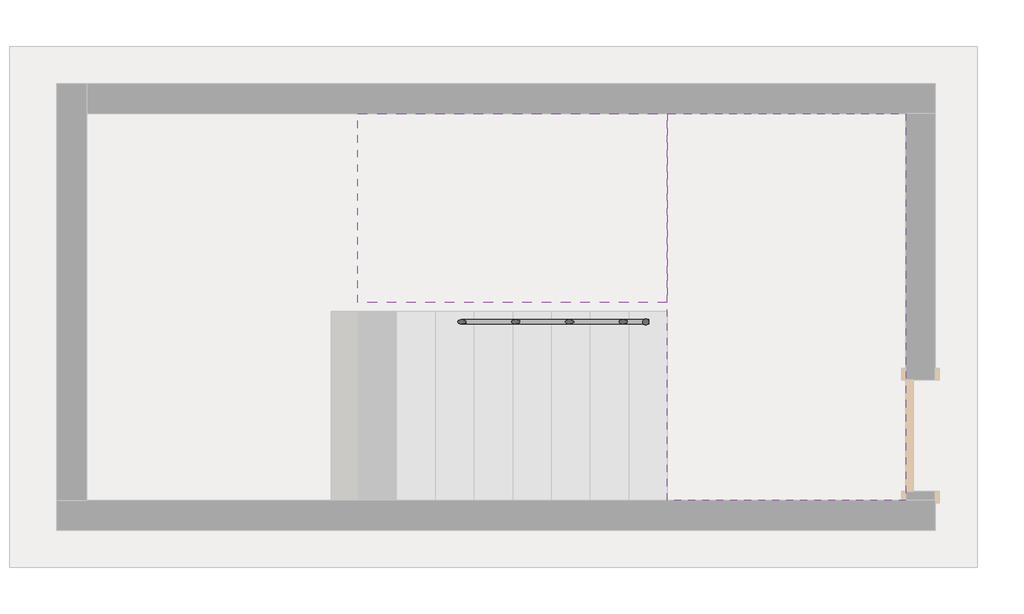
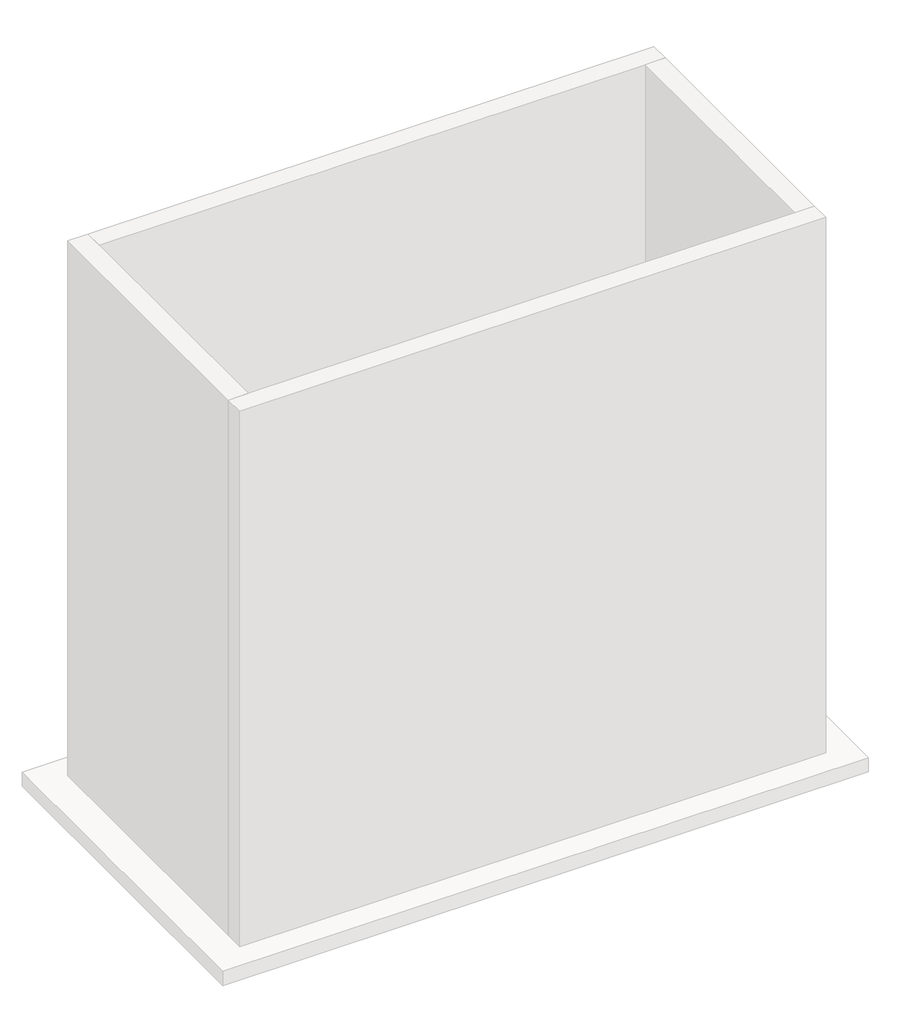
# One storey, part 2 of 2: 1 railing, 1 slab, 1 stair flight.
"""IFC4 building model written with IfcOpenShell, lengths in millimetres."""

from ifc_helpers import new_model, si_unit, point, frame, frame_2d, origin, place, context, project, spatial, circle_curve, ellipse_curve, trimmed, segment, composite_curve, outline, extrude, faceted_brep, element, save
from ifc_brep_helpers import plane_surface, cylinder_surface, advanced_brep

model = new_model("IFC4")

# Units and contexts
model_context = context("Model", 3, world=origin())
ifc_project = project(units=[si_unit("LENGTHUNIT", "METRE", prefix="MILLI")], contexts=[model_context])

# Site, building, storey
site = spatial("IfcSite", under=ifc_project)
building = spatial("IfcBuilding", under=site)
storey = spatial("IfcBuildingStorey", under=building, Name="标高 1", Elevation=0.0)

# Railing
placement = place(None, origin())
element("IfcRailing", 1, ObjectType="1100mm圆管-楼梯", at=placement, inside=storey, context=model_context, shape_type="SolidModel", body=[
    advanced_brep(
    [(5719.1227165, -2293.3269479, 3966.5384615), (5759.1227165, -2293.3269479, 3966.5384615), (5759.1227165, -873.3269479, 3966.5384615), (5719.1227165, -913.3269479, 3966.5384615), (3459.1227165, -913.3269479, 2617.2884694), (3459.1227165, -873.3269479, 2617.2884694), (5674.7332298, -913.3269479, 3966.5384615), (5674.7332298, -873.3269479, 3966.5384615)],
    [
        (0, 1, circle_curve(frame((5739.1227165, -2293.3269479, 3966.5384615), z_axis=(0.0, -1.0, 0.0), x_axis=(1.0, 0.0, 0.0)), 20.0)),
        (1, 0, circle_curve(frame((5739.1227165, -2293.3269479, 3966.5384615), z_axis=(0.0, -1.0, 0.0), x_axis=(1.0, 0.0, 0.0)), 20.0)),
        (2, 3, ellipse_curve(frame((5739.1227165, -893.3269479, 3966.5384615), z_axis=(0.7071067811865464, -0.7071067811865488, 0.0), x_axis=(0.7071067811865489, 0.707106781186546, 0.0)), 28.2842712, 20.0)),
        (3, 0),
        (1, 2),
        (3, 2, ellipse_curve(frame((5739.1227165, -893.3269479, 3966.5384615), z_axis=(0.7071067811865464, -0.7071067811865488, 0.0), x_axis=(0.7071067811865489, 0.707106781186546, 0.0)), 28.2842712, 20.0)),
        (4, 5, ellipse_curve(frame((3459.1227165, -893.3269479, 2617.2884694), z_axis=(-0.48983638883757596, 0.0, -0.8718143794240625), x_axis=(-0.8718143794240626, 0.0, 0.4898363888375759)), 22.9406631, 20.0)),
        (5, 4, ellipse_curve(frame((3459.1227165, -893.3269479, 2617.2884694), z_axis=(-0.48983638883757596, 0.0, -0.8718143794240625), x_axis=(-0.8718143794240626, 0.0, 0.4898363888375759)), 22.9406631, 20.0)),
        (4, 6),
        (6, 7, ellipse_curve(frame((5674.7332298, -893.3269479, 3966.5384615), z_axis=(-0.9628324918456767, 0.0, -0.27009922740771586), x_axis=(0.2700992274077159, 0.0, -0.9628324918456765)), 20.7720452, 20.0)),
        (7, 5),
        (7, 6, ellipse_curve(frame((5674.7332298, -893.3269479, 3966.5384615), z_axis=(-0.9628324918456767, 0.0, -0.27009922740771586), x_axis=(0.2700992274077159, 0.0, -0.9628324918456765)), 20.7720452, 20.0)),
        (6, 3),
        (2, 7),
    ],
    [
        plane_surface(frame((5739.1227165, -2293.3269479, 3986.5384615), z_axis=(0.0, -1.0, 0.0), x_axis=(0.0, 0.0, -1.0))),
        cylinder_surface(frame((5739.1227165, -893.3269479, 3966.5384615), z_axis=(0.0, 1.0, 0.0), x_axis=(1.0, 0.0, 0.0)), 20.0),
        plane_surface(frame((3439.1227165, -893.3269479, 2628.525641), z_axis=(-0.48983638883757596, 0.0, -0.8718143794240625), x_axis=(0.8718143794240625, 0.0, -0.48983638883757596))),
        cylinder_surface(frame((3449.5251289, -893.3269479, 2611.4437847), z_axis=(-0.8540928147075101, 0.0, -0.5201206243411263), x_axis=(0.0, 1.0, 0.0)), 20.0),
        cylinder_surface(frame((5669.1227165, -893.3269479, 3966.5384615), z_axis=(-1.0, 0.0, 0.0), x_axis=(0.0, 1.0, 0.0)), 20.0),
    ],
    [
        (0, [[1, 2]]),
        (1, [[3, 4, -2, 5]]),
        (1, [[6, -5, -1, -4]]),
        (2, [[7, 8]]),
        (3, [[-7, 9, 10, 11]]),
        (3, [[-8, -11, 12, -9]]),
        (4, [[-10, 13, -3, 14]]),
        (4, [[-12, -14, -6, -13]]),
    ],
),
    advanced_brep(
    [(3479.1227165, -893.3269479, 2505.0), (3439.1227165, -893.3269479, 2505.0), (3439.1227165, -1113.3269479, 2505.0), (3479.1227165, -1073.3269479, 2505.0), (5464.1227165, -1113.3269479, 1323.2179566), (5464.1227165, -1073.3269479, 1323.2179566), (3523.5122031, -1073.3269479, 2505.0), (3523.5122031, -1113.3269479, 2505.0), (5464.1227165, -1073.3269479, 158.3333333), (5464.1227165, -1113.3269479, 158.3333333)],
    [
        (0, 1, ellipse_curve(frame((3459.1227165, -893.3269479, 2505.0), z_axis=(0.0, 0.7071067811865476, 0.7071067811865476), x_axis=(0.0, -0.7071067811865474, 0.7071067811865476)), 28.2842712, 20.0)),
        (1, 0, ellipse_curve(frame((3459.1227165, -893.3269479, 2505.0), z_axis=(0.0, 0.7071067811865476, 0.7071067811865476), x_axis=(0.0, -0.7071067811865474, 0.7071067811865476)), 28.2842712, 20.0)),
        (2, 3, ellipse_curve(frame((3459.1227165, -1093.3269479, 2505.0), z_axis=(-0.7071067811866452, 0.7071067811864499, 0.0), x_axis=(-0.7071067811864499, -0.7071067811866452, 0.0)), 28.2842712, 20.0)),
        (3, 0),
        (1, 2),
        (3, 2, ellipse_curve(frame((3459.1227165, -1093.3269479, 2505.0), z_axis=(-0.7071067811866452, 0.7071067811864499, 0.0), x_axis=(-0.7071067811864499, -0.7071067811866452, 0.0)), 28.2842712, 20.0)),
        (4, 5, ellipse_curve(frame((5464.1227165, -1093.3269479, 1323.2179566), z_axis=(-0.48983638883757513, 0.0, 0.8718143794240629), x_axis=(0.8718143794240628, 0.0, 0.4898363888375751)), 22.9406631, 20.0)),
        (5, 6),
        (6, 7, ellipse_curve(frame((3523.5122031, -1093.3269479, 2505.0), z_axis=(0.9628324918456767, 0.0, -0.27009922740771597), x_axis=(-0.2700992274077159, 0.0, -0.9628324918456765)), 20.7720452, 20.0)),
        (7, 4),
        (5, 4, ellipse_curve(frame((5464.1227165, -1093.3269479, 1323.2179566), z_axis=(-0.48983638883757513, 0.0, 0.8718143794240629), x_axis=(0.8718143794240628, 0.0, 0.4898363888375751)), 22.9406631, 20.0)),
        (7, 6, ellipse_curve(frame((3523.5122031, -1093.3269479, 2505.0), z_axis=(0.9628324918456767, 0.0, -0.27009922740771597), x_axis=(-0.2700992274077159, 0.0, -0.9628324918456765)), 20.7720452, 20.0)),
        (8, 9, circle_curve(frame((5464.1227165, -1093.3269479, 158.3333333), z_axis=(0.0, 0.0, -1.0), x_axis=(0.0, -1.0, 0.0)), 20.0)),
        (9, 8, circle_curve(frame((5464.1227165, -1093.3269479, 158.3333333), z_axis=(0.0, 0.0, -1.0), x_axis=(0.0, -1.0, 0.0)), 20.0)),
        (8, 5),
        (4, 9),
        (6, 3),
        (2, 7),
    ],
    [
        plane_surface(frame((3459.1227165, -913.3269479, 2525.0), z_axis=(0.0, 0.7071067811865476, 0.7071067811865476), x_axis=(1.0, 0.0, 0.0))),
        cylinder_surface(frame((3459.1227165, -1093.3269479, 2505.0), z_axis=(0.0, -1.0, 0.0), x_axis=(-1.0, 0.0, 0.0)), 20.0),
        cylinder_surface(frame((5473.720304, -1093.3269479, 1317.3732719), z_axis=(0.8540928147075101, 0.0, -0.5201206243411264), x_axis=(0.0, -1.0, 0.0)), 20.0),
        plane_surface(frame((5484.1227165, -1133.3269479, 158.3333333), z_axis=(0.0, 0.0, -1.0), x_axis=(1.0, 0.0, 0.0))),
        cylinder_surface(frame((5464.1227165, -1093.3269479, 158.3333333), z_axis=(0.0, 0.0, -1.0), x_axis=(0.0, -1.0, 0.0)), 20.0),
        cylinder_surface(frame((3529.1227165, -1093.3269479, 2505.0), z_axis=(1.0, 0.0, 0.0), x_axis=(0.0, -1.0, 0.0)), 20.0),
    ],
    [
        (0, [[1, 2]]),
        (1, [[3, 4, -2, 5]]),
        (1, [[6, -5, -1, -4]]),
        (2, [[7, 8, 9, 10]]),
        (2, [[11, -10, 12, -8]]),
        (3, [[13, 14]]),
        (4, [[-13, 15, -7, 16]]),
        (4, [[-14, -16, -11, -15]]),
        (5, [[-9, 17, -3, 18]]),
        (5, [[-12, -18, -6, -17]]),
    ],
),
    advanced_brep(
    [(3479.1227165, -893.3269479, 2505.0), (3439.1227165, -893.3269479, 2505.0), (3479.1227165, -893.3269479, 2606.0512978), (3439.1227165, -893.3269479, 2628.525641)],
    [
        (0, 1, ellipse_curve(frame((3459.1227165, -893.3269479, 2505.0), z_axis=(0.0, -0.7071067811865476, -0.7071067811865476), x_axis=(0.0, 0.7071067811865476, -0.7071067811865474)), 28.2842712, 20.0)),
        (1, 0, ellipse_curve(frame((3459.1227165, -893.3269479, 2505.0), z_axis=(0.0, -0.7071067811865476, -0.7071067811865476), x_axis=(0.0, 0.7071067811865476, -0.7071067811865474)), 28.2842712, 20.0)),
        (2, 3, ellipse_curve(frame((3459.1227165, -893.3269479, 2617.2884694), z_axis=(0.48983638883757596, 0.0, 0.8718143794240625), x_axis=(0.8718143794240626, 0.0, -0.4898363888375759)), 22.9406631, 20.0)),
        (3, 2, ellipse_curve(frame((3459.1227165, -893.3269479, 2617.2884694), z_axis=(0.48983638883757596, 0.0, 0.8718143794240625), x_axis=(0.8718143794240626, 0.0, -0.4898363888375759)), 22.9406631, 20.0)),
        (0, 2),
        (3, 1),
    ],
    [
        plane_surface(frame((3459.1227165, -893.3269479, 2505.0), z_axis=(0.0, -0.7071067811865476, -0.7071067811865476), x_axis=(1.0, 0.0, 0.0))),
        plane_surface(frame((3459.1227165, -893.3269479, 2617.2884694), z_axis=(0.48983638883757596, 0.0, 0.8718143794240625), x_axis=(0.8718143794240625, 0.0, -0.48983638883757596))),
        cylinder_surface(frame((3459.1227165, -893.3269479, 2505.0), z_axis=(0.0, 0.0, -1.0), x_axis=(-1.0, 0.0, 0.0)), 20.0),
    ],
    [
        (0, [[1, 2]]),
        (1, [[3, 4]]),
        (2, [[-1, 5, -4, 6]]),
        (2, [[-2, -6, -3, -5]]),
    ],
),
    advanced_brep(
    [(5754.1227165, -2293.3269479, 3751.5384615), (5724.1227165, -2293.3269479, 3751.5384615), (5754.1227165, -878.3269479, 3751.5384615), (5724.1227165, -908.3269479, 3751.5384615), (5673.3306015, -878.3269479, 3751.5384615), (5673.3306015, -908.3269479, 3751.5384615), (3444.1227165, -878.3269479, 2394.0080187), (3444.1227165, -908.3269479, 2394.0080187)],
    [
        (0, 1, circle_curve(frame((5739.1227165, -2293.3269479, 3751.5384615), z_axis=(0.0, -1.0, 0.0), x_axis=(-1.0, 0.0, 0.0)), 15.0)),
        (1, 0, circle_curve(frame((5739.1227165, -2293.3269479, 3751.5384615), z_axis=(0.0, -1.0, 0.0), x_axis=(-1.0, 0.0, 0.0)), 15.0)),
        (0, 2),
        (2, 3, ellipse_curve(frame((5739.1227165, -893.3269479, 3751.5384615), z_axis=(0.7071067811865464, -0.7071067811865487, 0.0), x_axis=(-0.7071067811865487, -0.7071067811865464, 0.0)), 21.2132034, 15.0)),
        (3, 1),
        (3, 2, ellipse_curve(frame((5739.1227165, -893.3269479, 3751.5384615), z_axis=(0.7071067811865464, -0.7071067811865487, 0.0), x_axis=(-0.7071067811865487, -0.7071067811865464, 0.0)), 21.2132034, 15.0)),
        (2, 4),
        (4, 5, ellipse_curve(frame((5673.3306015, -893.3269479, 3751.5384615), z_axis=(0.9628324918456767, 0.0, 0.2700992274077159), x_axis=(0.27009922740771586, 0.0, -0.9628324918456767)), 15.5790339, 15.0)),
        (5, 3),
        (5, 4, ellipse_curve(frame((5673.3306015, -893.3269479, 3751.5384615), z_axis=(0.9628324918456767, 0.0, 0.2700992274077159), x_axis=(0.27009922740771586, 0.0, -0.9628324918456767)), 15.5790339, 15.0)),
        (6, 7, ellipse_curve(frame((3444.1227165, -893.3269479, 2394.0080187), z_axis=(-1.0, 0.0, 0.0), x_axis=(0.0, 0.0, 1.0)), 17.5624941, 15.0)),
        (7, 6, ellipse_curve(frame((3444.1227165, -893.3269479, 2394.0080187), z_axis=(-1.0, 0.0, 0.0), x_axis=(0.0, 0.0, 1.0)), 17.5624941, 15.0)),
        (4, 6),
        (7, 5),
    ],
    [
        plane_surface(frame((5739.1227165, -2293.3269479, 3766.5384615), z_axis=(0.0, -1.0, 0.0), x_axis=(0.0, 0.0, 1.0))),
        cylinder_surface(frame((5739.1227165, -2293.3269479, 3751.5384615), z_axis=(0.0, -1.0, 0.0), x_axis=(-1.0, 0.0, 0.0)), 15.0),
        cylinder_surface(frame((5739.1227165, -893.3269479, 3751.5384615), z_axis=(1.0, 0.0, 0.0), x_axis=(0.0, -1.0, 0.0)), 15.0),
        plane_surface(frame((3444.1227165, -893.3269479, 2411.5705128), z_axis=(-1.0, 0.0, 0.0), x_axis=(0.0, -1.0, 0.0))),
        cylinder_surface(frame((5676.9245258, -893.3269479, 3753.7270693), z_axis=(0.8540928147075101, 0.0, 0.5201206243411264), x_axis=(0.0, -1.0, 0.0)), 15.0),
    ],
    [
        (0, [[1, 2]]),
        (1, [[-1, 3, 4, 5]]),
        (1, [[-2, -5, 6, -3]]),
        (2, [[-4, 7, 8, 9]]),
        (2, [[-6, -9, 10, -7]]),
        (3, [[11, 12]]),
        (4, [[-8, 13, -12, 14]]),
        (4, [[-10, -14, -11, -13]]),
    ],
),
    advanced_brep(
    [(3444.1227165, -908.3269479, 2290.0), (3474.1227165, -908.3269479, 2290.0), (3444.1227165, -1108.3269479, 2290.0), (3474.1227165, -1078.3269479, 2290.0), (3524.9148314, -1108.3269479, 2290.0), (3524.9148314, -1078.3269479, 2290.0), (5484.1227165, -1108.3269479, 1096.8926341), (5484.1227165, -1078.3269479, 1096.8926341)],
    [
        (0, 1, circle_curve(frame((3459.1227165, -908.3269479, 2290.0), z_axis=(0.0, 1.0, 0.0), x_axis=(1.0, 0.0, 0.0)), 15.0)),
        (1, 0, circle_curve(frame((3459.1227165, -908.3269479, 2290.0), z_axis=(0.0, 1.0, 0.0), x_axis=(1.0, 0.0, 0.0)), 15.0)),
        (0, 2),
        (2, 3, ellipse_curve(frame((3459.1227165, -1093.3269479, 2290.0), z_axis=(-0.7071067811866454, 0.7071067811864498, 0.0), x_axis=(0.7071067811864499, 0.7071067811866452, 0.0)), 21.2132034, 15.0)),
        (3, 1),
        (3, 2, ellipse_curve(frame((3459.1227165, -1093.3269479, 2290.0), z_axis=(-0.7071067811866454, 0.7071067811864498, 0.0), x_axis=(0.7071067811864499, 0.7071067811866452, 0.0)), 21.2132034, 15.0)),
        (2, 4),
        (4, 5, ellipse_curve(frame((3524.9148314, -1093.3269479, 2290.0), z_axis=(-0.9628324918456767, 0.0, 0.2700992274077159), x_axis=(-0.27009922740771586, 0.0, -0.9628324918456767)), 15.5790339, 15.0)),
        (5, 3),
        (5, 4, ellipse_curve(frame((3524.9148314, -1093.3269479, 2290.0), z_axis=(-0.9628324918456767, 0.0, 0.2700992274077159), x_axis=(-0.27009922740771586, 0.0, -0.9628324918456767)), 15.5790339, 15.0)),
        (6, 7, ellipse_curve(frame((5484.1227165, -1093.3269479, 1096.8926341), z_axis=(1.0, 0.0, 0.0), x_axis=(0.0, 0.0, 1.0)), 17.5624941, 15.0)),
        (7, 6, ellipse_curve(frame((5484.1227165, -1093.3269479, 1096.8926341), z_axis=(1.0, 0.0, 0.0), x_axis=(0.0, 0.0, 1.0)), 17.5624941, 15.0)),
        (4, 6),
        (7, 5),
    ],
    [
        plane_surface(frame((3459.1227165, -908.3269479, 2305.0), z_axis=(0.0, 1.0, 0.0), x_axis=(0.0, 0.0, -1.0))),
        cylinder_surface(frame((3459.1227165, -908.3269479, 2290.0), z_axis=(0.0, 1.0, 0.0), x_axis=(1.0, 0.0, 0.0)), 15.0),
        cylinder_surface(frame((3459.1227165, -1093.3269479, 2290.0), z_axis=(-1.0, 0.0, 0.0), x_axis=(0.0, 1.0, 0.0)), 15.0),
        plane_surface(frame((5484.1227165, -1093.3269479, 1114.4551282), z_axis=(1.0, 0.0, 0.0), x_axis=(0.0, 1.0, 0.0))),
        cylinder_surface(frame((3521.3209071, -1093.3269479, 2292.1886078), z_axis=(-0.85409281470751, 0.0, 0.5201206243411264), x_axis=(0.0, 1.0, 0.0)), 15.0),
    ],
    [
        (0, [[1, 2]]),
        (1, [[-1, 3, 4, 5]]),
        (1, [[-2, -5, 6, -3]]),
        (2, [[-4, 7, 8, 9]]),
        (2, [[-6, -9, 10, -7]]),
        (3, [[11, 12]]),
        (4, [[-8, 13, -12, 14]]),
        (4, [[-10, -14, -11, -13]]),
    ],
),
    advanced_brep(
    [(5754.1227165, -2293.3269479, 3531.5384615), (5724.1227165, -2293.3269479, 3531.5384615), (5754.1227165, -878.3269479, 3531.5384615), (5724.1227165, -908.3269479, 3531.5384615), (5673.3306015, -878.3269479, 3531.5384615), (5673.3306015, -908.3269479, 3531.5384615), (3444.1227165, -878.3269479, 2174.0080187), (3444.1227165, -908.3269479, 2174.0080187)],
    [
        (0, 1, circle_curve(frame((5739.1227165, -2293.3269479, 3531.5384615), z_axis=(0.0, -1.0, 0.0), x_axis=(-1.0, 0.0, 0.0)), 15.0)),
        (1, 0, circle_curve(frame((5739.1227165, -2293.3269479, 3531.5384615), z_axis=(0.0, -1.0, 0.0), x_axis=(-1.0, 0.0, 0.0)), 15.0)),
        (0, 2),
        (2, 3, ellipse_curve(frame((5739.1227165, -893.3269479, 3531.5384615), z_axis=(0.7071067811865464, -0.7071067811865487, 0.0), x_axis=(-0.7071067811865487, -0.7071067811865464, 0.0)), 21.2132034, 15.0)),
        (3, 1),
        (3, 2, ellipse_curve(frame((5739.1227165, -893.3269479, 3531.5384615), z_axis=(0.7071067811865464, -0.7071067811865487, 0.0), x_axis=(-0.7071067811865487, -0.7071067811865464, 0.0)), 21.2132034, 15.0)),
        (2, 4),
        (4, 5, ellipse_curve(frame((5673.3306015, -893.3269479, 3531.5384615), z_axis=(0.9628324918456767, 0.0, 0.27009922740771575), x_axis=(0.270099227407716, 0.0, -0.9628324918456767)), 15.5790339, 15.0)),
        (5, 3),
        (5, 4, ellipse_curve(frame((5673.3306015, -893.3269479, 3531.5384615), z_axis=(0.9628324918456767, 0.0, 0.27009922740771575), x_axis=(0.270099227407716, 0.0, -0.9628324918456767)), 15.5790339, 15.0)),
        (6, 7, ellipse_curve(frame((3444.1227165, -893.3269479, 2174.0080187), z_axis=(-1.0, 0.0, 0.0), x_axis=(0.0, 0.0, 1.0)), 17.5624941, 15.0)),
        (7, 6, ellipse_curve(frame((3444.1227165, -893.3269479, 2174.0080187), z_axis=(-1.0, 0.0, 0.0), x_axis=(0.0, 0.0, 1.0)), 17.5624941, 15.0)),
        (4, 6),
        (7, 5),
    ],
    [
        plane_surface(frame((5739.1227165, -2293.3269479, 3546.5384615), z_axis=(0.0, -1.0, 0.0), x_axis=(0.0, 0.0, 1.0))),
        cylinder_surface(frame((5739.1227165, -2293.3269479, 3531.5384615), z_axis=(0.0, -1.0, 0.0), x_axis=(-1.0, 0.0, 0.0)), 15.0),
        cylinder_surface(frame((5739.1227165, -893.3269479, 3531.5384615), z_axis=(1.0, 0.0, 0.0), x_axis=(0.0, -1.0, 0.0)), 15.0),
        plane_surface(frame((3444.1227165, -893.3269479, 2191.5705128), z_axis=(-1.0, 0.0, 0.0), x_axis=(0.0, -1.0, 0.0))),
        cylinder_surface(frame((5676.9245258, -893.3269479, 3533.7270693), z_axis=(0.8540928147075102, 0.0, 0.5201206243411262), x_axis=(0.0, -1.0, 0.0)), 15.0),
    ],
    [
        (0, [[1, 2]]),
        (1, [[-1, 3, 4, 5]]),
        (1, [[-2, -5, 6, -3]]),
        (2, [[-4, 7, 8, 9]]),
        (2, [[-6, -9, 10, -7]]),
        (3, [[11, 12]]),
        (4, [[-8, 13, -12, 14]]),
        (4, [[-10, -14, -11, -13]]),
    ],
),
    advanced_brep(
    [(3444.1227165, -908.3269479, 2070.0), (3474.1227165, -908.3269479, 2070.0), (3444.1227165, -1108.3269479, 2070.0), (3474.1227165, -1078.3269479, 2070.0), (3524.9148314, -1108.3269479, 2070.0), (3524.9148314, -1078.3269479, 2070.0), (5484.1227165, -1108.3269479, 876.8926341), (5484.1227165, -1078.3269479, 876.8926341)],
    [
        (0, 1, circle_curve(frame((3459.1227165, -908.3269479, 2070.0), z_axis=(0.0, 1.0, 0.0), x_axis=(1.0, 0.0, 0.0)), 15.0)),
        (1, 0, circle_curve(frame((3459.1227165, -908.3269479, 2070.0), z_axis=(0.0, 1.0, 0.0), x_axis=(1.0, 0.0, 0.0)), 15.0)),
        (0, 2),
        (2, 3, ellipse_curve(frame((3459.1227165, -1093.3269479, 2070.0), z_axis=(-0.7071067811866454, 0.7071067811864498, 0.0), x_axis=(0.7071067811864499, 0.7071067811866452, 0.0)), 21.2132034, 15.0)),
        (3, 1),
        (3, 2, ellipse_curve(frame((3459.1227165, -1093.3269479, 2070.0), z_axis=(-0.7071067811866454, 0.7071067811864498, 0.0), x_axis=(0.7071067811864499, 0.7071067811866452, 0.0)), 21.2132034, 15.0)),
        (2, 4),
        (4, 5, ellipse_curve(frame((3524.9148314, -1093.3269479, 2070.0), z_axis=(-0.9628324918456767, 0.0, 0.2700992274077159), x_axis=(-0.27009922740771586, 0.0, -0.9628324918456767)), 15.5790339, 15.0)),
        (5, 3),
        (5, 4, ellipse_curve(frame((3524.9148314, -1093.3269479, 2070.0), z_axis=(-0.9628324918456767, 0.0, 0.2700992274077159), x_axis=(-0.27009922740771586, 0.0, -0.9628324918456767)), 15.5790339, 15.0)),
        (6, 7, ellipse_curve(frame((5484.1227165, -1093.3269479, 876.8926341), z_axis=(1.0, 0.0, 0.0), x_axis=(0.0, 0.0, 1.0)), 17.5624941, 15.0)),
        (7, 6, ellipse_curve(frame((5484.1227165, -1093.3269479, 876.8926341), z_axis=(1.0, 0.0, 0.0), x_axis=(0.0, 0.0, 1.0)), 17.5624941, 15.0)),
        (4, 6),
        (7, 5),
    ],
    [
        plane_surface(frame((3459.1227165, -908.3269479, 2085.0), z_axis=(0.0, 1.0, 0.0), x_axis=(0.0, 0.0, -1.0))),
        cylinder_surface(frame((3459.1227165, -908.3269479, 2070.0), z_axis=(0.0, 1.0, 0.0), x_axis=(1.0, 0.0, 0.0)), 15.0),
        cylinder_surface(frame((3459.1227165, -1093.3269479, 2070.0), z_axis=(-1.0, 0.0, 0.0), x_axis=(0.0, 1.0, 0.0)), 15.0),
        plane_surface(frame((5484.1227165, -1093.3269479, 894.4551282), z_axis=(1.0, 0.0, 0.0), x_axis=(0.0, 1.0, 0.0))),
        cylinder_surface(frame((3521.3209071, -1093.3269479, 2072.1886078), z_axis=(-0.85409281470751, 0.0, 0.5201206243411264), x_axis=(0.0, 1.0, 0.0)), 15.0),
    ],
    [
        (0, [[1, 2]]),
        (1, [[-1, 3, 4, 5]]),
        (1, [[-2, -5, 6, -3]]),
        (2, [[-4, 7, 8, 9]]),
        (2, [[-6, -9, 10, -7]]),
        (3, [[11, 12]]),
        (4, [[-8, 13, -12, 14]]),
        (4, [[-10, -14, -11, -13]]),
    ],
),
    advanced_brep(
    [(5754.1227165, -2293.3269479, 3311.5384615), (5724.1227165, -2293.3269479, 3311.5384615), (5754.1227165, -878.3269479, 3311.5384615), (5724.1227165, -908.3269479, 3311.5384615), (5673.3306015, -878.3269479, 3311.5384615), (5673.3306015, -908.3269479, 3311.5384615), (3444.1227165, -878.3269479, 1954.0080187), (3444.1227165, -908.3269479, 1954.0080187)],
    [
        (0, 1, circle_curve(frame((5739.1227165, -2293.3269479, 3311.5384615), z_axis=(0.0, -1.0, 0.0), x_axis=(-1.0, 0.0, 0.0)), 15.0)),
        (1, 0, circle_curve(frame((5739.1227165, -2293.3269479, 3311.5384615), z_axis=(0.0, -1.0, 0.0), x_axis=(-1.0, 0.0, 0.0)), 15.0)),
        (0, 2),
        (2, 3, ellipse_curve(frame((5739.1227165, -893.3269479, 3311.5384615), z_axis=(0.7071067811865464, -0.7071067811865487, 0.0), x_axis=(-0.7071067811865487, -0.7071067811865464, 0.0)), 21.2132034, 15.0)),
        (3, 1),
        (3, 2, ellipse_curve(frame((5739.1227165, -893.3269479, 3311.5384615), z_axis=(0.7071067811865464, -0.7071067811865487, 0.0), x_axis=(-0.7071067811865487, -0.7071067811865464, 0.0)), 21.2132034, 15.0)),
        (2, 4),
        (4, 5, ellipse_curve(frame((5673.3306015, -893.3269479, 3311.5384615), z_axis=(0.9628324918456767, 0.0, 0.2700992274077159), x_axis=(0.27009922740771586, 0.0, -0.9628324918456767)), 15.5790339, 15.0)),
        (5, 3),
        (5, 4, ellipse_curve(frame((5673.3306015, -893.3269479, 3311.5384615), z_axis=(0.9628324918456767, 0.0, 0.2700992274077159), x_axis=(0.27009922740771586, 0.0, -0.9628324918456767)), 15.5790339, 15.0)),
        (6, 7, ellipse_curve(frame((3444.1227165, -893.3269479, 1954.0080187), z_axis=(-1.0, 0.0, 0.0), x_axis=(0.0, 0.0, 1.0)), 17.5624941, 15.0)),
        (7, 6, ellipse_curve(frame((3444.1227165, -893.3269479, 1954.0080187), z_axis=(-1.0, 0.0, 0.0), x_axis=(0.0, 0.0, 1.0)), 17.5624941, 15.0)),
        (4, 6),
        (7, 5),
    ],
    [
        plane_surface(frame((5739.1227165, -2293.3269479, 3326.5384615), z_axis=(0.0, -1.0, 0.0), x_axis=(0.0, 0.0, 1.0))),
        cylinder_surface(frame((5739.1227165, -2293.3269479, 3311.5384615), z_axis=(0.0, -1.0, 0.0), x_axis=(-1.0, 0.0, 0.0)), 15.0),
        cylinder_surface(frame((5739.1227165, -893.3269479, 3311.5384615), z_axis=(1.0, 0.0, 0.0), x_axis=(0.0, -1.0, 0.0)), 15.0),
        plane_surface(frame((3444.1227165, -893.3269479, 1971.5705128), z_axis=(-1.0, 0.0, 0.0), x_axis=(0.0, -1.0, 0.0))),
        cylinder_surface(frame((5676.9245258, -893.3269479, 3313.7270693), z_axis=(0.8540928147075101, 0.0, 0.5201206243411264), x_axis=(0.0, -1.0, 0.0)), 15.0),
    ],
    [
        (0, [[1, 2]]),
        (1, [[-1, 3, 4, 5]]),
        (1, [[-2, -5, 6, -3]]),
        (2, [[-4, 7, 8, 9]]),
        (2, [[-6, -9, 10, -7]]),
        (3, [[11, 12]]),
        (4, [[-8, 13, -12, 14]]),
        (4, [[-10, -14, -11, -13]]),
    ],
),
    advanced_brep(
    [(3444.1227165, -908.3269479, 1850.0), (3474.1227165, -908.3269479, 1850.0), (3444.1227165, -1108.3269479, 1850.0), (3474.1227165, -1078.3269479, 1850.0), (3524.9148314, -1108.3269479, 1850.0), (3524.9148314, -1078.3269479, 1850.0), (5484.1227165, -1108.3269479, 656.8926341), (5484.1227165, -1078.3269479, 656.8926341)],
    [
        (0, 1, circle_curve(frame((3459.1227165, -908.3269479, 1850.0), z_axis=(0.0, 1.0, 0.0), x_axis=(1.0, 0.0, 0.0)), 15.0)),
        (1, 0, circle_curve(frame((3459.1227165, -908.3269479, 1850.0), z_axis=(0.0, 1.0, 0.0), x_axis=(1.0, 0.0, 0.0)), 15.0)),
        (0, 2),
        (2, 3, ellipse_curve(frame((3459.1227165, -1093.3269479, 1850.0), z_axis=(-0.7071067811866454, 0.7071067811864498, 0.0), x_axis=(0.7071067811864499, 0.7071067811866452, 0.0)), 21.2132034, 15.0)),
        (3, 1),
        (3, 2, ellipse_curve(frame((3459.1227165, -1093.3269479, 1850.0), z_axis=(-0.7071067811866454, 0.7071067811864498, 0.0), x_axis=(0.7071067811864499, 0.7071067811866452, 0.0)), 21.2132034, 15.0)),
        (2, 4),
        (4, 5, ellipse_curve(frame((3524.9148314, -1093.3269479, 1850.0), z_axis=(-0.9628324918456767, 0.0, 0.2700992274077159), x_axis=(-0.27009922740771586, 0.0, -0.9628324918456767)), 15.5790339, 15.0)),
        (5, 3),
        (5, 4, ellipse_curve(frame((3524.9148314, -1093.3269479, 1850.0), z_axis=(-0.9628324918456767, 0.0, 0.2700992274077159), x_axis=(-0.27009922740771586, 0.0, -0.9628324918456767)), 15.5790339, 15.0)),
        (6, 7, ellipse_curve(frame((5484.1227165, -1093.3269479, 656.8926341), z_axis=(1.0, 0.0, 0.0), x_axis=(0.0, 0.0, 1.0)), 17.5624941, 15.0)),
        (7, 6, ellipse_curve(frame((5484.1227165, -1093.3269479, 656.8926341), z_axis=(1.0, 0.0, 0.0), x_axis=(0.0, 0.0, 1.0)), 17.5624941, 15.0)),
        (4, 6),
        (7, 5),
    ],
    [
        plane_surface(frame((3459.1227165, -908.3269479, 1865.0), z_axis=(0.0, 1.0, 0.0), x_axis=(0.0, 0.0, -1.0))),
        cylinder_surface(frame((3459.1227165, -908.3269479, 1850.0), z_axis=(0.0, 1.0, 0.0), x_axis=(1.0, 0.0, 0.0)), 15.0),
        cylinder_surface(frame((3459.1227165, -1093.3269479, 1850.0), z_axis=(-1.0, 0.0, 0.0), x_axis=(0.0, 1.0, 0.0)), 15.0),
        plane_surface(frame((5484.1227165, -1093.3269479, 674.4551282), z_axis=(1.0, 0.0, 0.0), x_axis=(0.0, 1.0, 0.0))),
        cylinder_surface(frame((3521.3209071, -1093.3269479, 1852.1886078), z_axis=(-0.85409281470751, 0.0, 0.5201206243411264), x_axis=(0.0, 1.0, 0.0)), 15.0),
    ],
    [
        (0, [[1, 2]]),
        (1, [[-1, 3, 4, 5]]),
        (1, [[-2, -5, 6, -3]]),
        (2, [[-4, 7, 8, 9]]),
        (2, [[-6, -9, 10, -7]]),
        (3, [[11, 12]]),
        (4, [[-8, 13, -12, 14]]),
        (4, [[-10, -14, -11, -13]]),
    ],
),
    advanced_brep(
    [(5754.1227165, -2293.3269479, 3091.5384615), (5724.1227165, -2293.3269479, 3091.5384615), (5754.1227165, -878.3269479, 3091.5384615), (5724.1227165, -908.3269479, 3091.5384615), (5673.3306015, -878.3269479, 3091.5384615), (5673.3306015, -908.3269479, 3091.5384615), (3444.1227165, -878.3269479, 1734.0080187), (3444.1227165, -908.3269479, 1734.0080187)],
    [
        (0, 1, circle_curve(frame((5739.1227165, -2293.3269479, 3091.5384615), z_axis=(0.0, -1.0, 0.0), x_axis=(-1.0, 0.0, 0.0)), 15.0)),
        (1, 0, circle_curve(frame((5739.1227165, -2293.3269479, 3091.5384615), z_axis=(0.0, -1.0, 0.0), x_axis=(-1.0, 0.0, 0.0)), 15.0)),
        (0, 2),
        (2, 3, ellipse_curve(frame((5739.1227165, -893.3269479, 3091.5384615), z_axis=(0.7071067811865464, -0.7071067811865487, 0.0), x_axis=(-0.7071067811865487, -0.7071067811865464, 0.0)), 21.2132034, 15.0)),
        (3, 1),
        (3, 2, ellipse_curve(frame((5739.1227165, -893.3269479, 3091.5384615), z_axis=(0.7071067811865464, -0.7071067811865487, 0.0), x_axis=(-0.7071067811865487, -0.7071067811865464, 0.0)), 21.2132034, 15.0)),
        (2, 4),
        (4, 5, ellipse_curve(frame((5673.3306015, -893.3269479, 3091.5384615), z_axis=(0.9628324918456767, 0.0, 0.27009922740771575), x_axis=(0.270099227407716, 0.0, -0.9628324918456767)), 15.5790339, 15.0)),
        (5, 3),
        (5, 4, ellipse_curve(frame((5673.3306015, -893.3269479, 3091.5384615), z_axis=(0.9628324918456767, 0.0, 0.27009922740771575), x_axis=(0.270099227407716, 0.0, -0.9628324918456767)), 15.5790339, 15.0)),
        (6, 7, ellipse_curve(frame((3444.1227165, -893.3269479, 1734.0080187), z_axis=(-1.0, 0.0, 0.0), x_axis=(0.0, 0.0, 1.0)), 17.5624941, 15.0)),
        (7, 6, ellipse_curve(frame((3444.1227165, -893.3269479, 1734.0080187), z_axis=(-1.0, 0.0, 0.0), x_axis=(0.0, 0.0, 1.0)), 17.5624941, 15.0)),
        (4, 6),
        (7, 5),
    ],
    [
        plane_surface(frame((5739.1227165, -2293.3269479, 3106.5384615), z_axis=(0.0, -1.0, 0.0), x_axis=(0.0, 0.0, 1.0))),
        cylinder_surface(frame((5739.1227165, -2293.3269479, 3091.5384615), z_axis=(0.0, -1.0, 0.0), x_axis=(-1.0, 0.0, 0.0)), 15.0),
        cylinder_surface(frame((5739.1227165, -893.3269479, 3091.5384615), z_axis=(1.0, 0.0, 0.0), x_axis=(0.0, -1.0, 0.0)), 15.0),
        plane_surface(frame((3444.1227165, -893.3269479, 1751.5705128), z_axis=(-1.0, 0.0, 0.0), x_axis=(0.0, -1.0, 0.0))),
        cylinder_surface(frame((5676.9245258, -893.3269479, 3093.7270693), z_axis=(0.8540928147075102, 0.0, 0.5201206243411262), x_axis=(0.0, -1.0, 0.0)), 15.0),
    ],
    [
        (0, [[1, 2]]),
        (1, [[-1, 3, 4, 5]]),
        (1, [[-2, -5, 6, -3]]),
        (2, [[-4, 7, 8, 9]]),
        (2, [[-6, -9, 10, -7]]),
        (3, [[11, 12]]),
        (4, [[-8, 13, -12, 14]]),
        (4, [[-10, -14, -11, -13]]),
    ],
),
    advanced_brep(
    [(3444.1227165, -908.3269479, 1630.0), (3474.1227165, -908.3269479, 1630.0), (3444.1227165, -1108.3269479, 1630.0), (3474.1227165, -1078.3269479, 1630.0), (3524.9148314, -1108.3269479, 1630.0), (3524.9148314, -1078.3269479, 1630.0), (5484.1227165, -1108.3269479, 436.8926341), (5484.1227165, -1078.3269479, 436.8926341)],
    [
        (0, 1, circle_curve(frame((3459.1227165, -908.3269479, 1630.0), z_axis=(0.0, 1.0, 0.0), x_axis=(1.0, 0.0, 0.0)), 15.0)),
        (1, 0, circle_curve(frame((3459.1227165, -908.3269479, 1630.0), z_axis=(0.0, 1.0, 0.0), x_axis=(1.0, 0.0, 0.0)), 15.0)),
        (0, 2),
        (2, 3, ellipse_curve(frame((3459.1227165, -1093.3269479, 1630.0), z_axis=(-0.7071067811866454, 0.7071067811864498, 0.0), x_axis=(0.7071067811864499, 0.7071067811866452, 0.0)), 21.2132034, 15.0)),
        (3, 1),
        (3, 2, ellipse_curve(frame((3459.1227165, -1093.3269479, 1630.0), z_axis=(-0.7071067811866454, 0.7071067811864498, 0.0), x_axis=(0.7071067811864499, 0.7071067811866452, 0.0)), 21.2132034, 15.0)),
        (2, 4),
        (4, 5, ellipse_curve(frame((3524.9148314, -1093.3269479, 1630.0), z_axis=(-0.9628324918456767, 0.0, 0.2700992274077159), x_axis=(-0.27009922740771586, 0.0, -0.9628324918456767)), 15.5790339, 15.0)),
        (5, 3),
        (5, 4, ellipse_curve(frame((3524.9148314, -1093.3269479, 1630.0), z_axis=(-0.9628324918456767, 0.0, 0.2700992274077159), x_axis=(-0.27009922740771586, 0.0, -0.9628324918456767)), 15.5790339, 15.0)),
        (6, 7, ellipse_curve(frame((5484.1227165, -1093.3269479, 436.8926341), z_axis=(1.0, 0.0, 0.0), x_axis=(0.0, 0.0, 1.0)), 17.5624941, 15.0)),
        (7, 6, ellipse_curve(frame((5484.1227165, -1093.3269479, 436.8926341), z_axis=(1.0, 0.0, 0.0), x_axis=(0.0, 0.0, 1.0)), 17.5624941, 15.0)),
        (4, 6),
        (7, 5),
    ],
    [
        plane_surface(frame((3459.1227165, -908.3269479, 1645.0), z_axis=(0.0, 1.0, 0.0), x_axis=(0.0, 0.0, -1.0))),
        cylinder_surface(frame((3459.1227165, -908.3269479, 1630.0), z_axis=(0.0, 1.0, 0.0), x_axis=(1.0, 0.0, 0.0)), 15.0),
        cylinder_surface(frame((3459.1227165, -1093.3269479, 1630.0), z_axis=(-1.0, 0.0, 0.0), x_axis=(0.0, 1.0, 0.0)), 15.0),
        plane_surface(frame((5484.1227165, -1093.3269479, 454.4551282), z_axis=(1.0, 0.0, 0.0), x_axis=(0.0, 1.0, 0.0))),
        cylinder_surface(frame((3521.3209071, -1093.3269479, 1632.1886078), z_axis=(-0.85409281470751, 0.0, 0.5201206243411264), x_axis=(0.0, 1.0, 0.0)), 15.0),
    ],
    [
        (0, [[1, 2]]),
        (1, [[-1, 3, 4, 5]]),
        (1, [[-2, -5, 6, -3]]),
        (2, [[-4, 7, 8, 9]]),
        (2, [[-6, -9, 10, -7]]),
        (3, [[11, 12]]),
        (4, [[-8, 13, -12, 14]]),
        (4, [[-10, -14, -11, -13]]),
    ],
),
    advanced_brep(
    [(4965.1227165, -1080.8269479, 1603.679503), (4965.1227165, -1105.8269479, 1603.679503), (4965.1227165, -1105.8269479, 475.0), (4965.1227165, -1080.8269479, 475.0)],
    [
        (0, 1, ellipse_curve(frame((4965.1227165, -1093.3269479, 1603.679503), z_axis=(-0.5201206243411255, 0.0, -0.8540928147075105), x_axis=(-0.8540928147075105, 0.0, 0.5201206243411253)), 14.6354117, 12.5)),
        (1, 2),
        (2, 3, circle_curve(frame((4965.1227165, -1093.3269479, 475.0), z_axis=(0.0, 0.0, 1.0), x_axis=(0.0, -1.0, 0.0)), 12.5)),
        (3, 0),
        (3, 2, circle_curve(frame((4965.1227165, -1093.3269479, 475.0), z_axis=(0.0, 0.0, 1.0), x_axis=(0.0, -1.0, 0.0)), 12.5)),
        (1, 0, ellipse_curve(frame((4965.1227165, -1093.3269479, 1603.679503), z_axis=(-0.5201206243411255, 0.0, -0.8540928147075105), x_axis=(-0.8540928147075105, 0.0, 0.5201206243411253)), 14.6354117, 12.5)),
    ],
    [
        cylinder_surface(frame((4965.1227165, -1093.3269479, 375.0), z_axis=(0.0, 0.0, 1.0), x_axis=(0.0, -1.0, 0.0)), 12.5),
        plane_surface(frame((4990.1227165, -1118.3269479, 1588.455144), z_axis=(0.5201206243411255, 0.0, 0.8540928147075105), x_axis=(0.0, 1.0, 0.0))),
        plane_surface(frame((4940.1227165, -1118.3269479, 475.0), z_axis=(0.0, 0.0, -1.0), x_axis=(0.0, 1.0, 0.0))),
    ],
    [
        (0, [[1, 2, 3, 4]]),
        (0, [[5, -2, 6, -4]]),
        (1, [[-6, -1]]),
        (2, [[-5, -3]]),
    ],
),
    advanced_brep(
    [(4247.1227165, -1080.8269479, 2040.9230927), (4247.1227165, -1105.8269479, 2040.9230927), (4247.1227165, -1105.8269479, 950.0), (4247.1227165, -1080.8269479, 950.0)],
    [
        (0, 1, ellipse_curve(frame((4247.1227165, -1093.3269479, 2040.9230927), z_axis=(-0.5201206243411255, 0.0, -0.8540928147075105), x_axis=(-0.8540928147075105, 0.0, 0.5201206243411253)), 14.6354117, 12.5)),
        (1, 2),
        (2, 3, circle_curve(frame((4247.1227165, -1093.3269479, 950.0), z_axis=(0.0, 0.0, 1.0), x_axis=(0.0, -1.0, 0.0)), 12.5)),
        (3, 0),
        (3, 2, circle_curve(frame((4247.1227165, -1093.3269479, 950.0), z_axis=(0.0, 0.0, 1.0), x_axis=(0.0, -1.0, 0.0)), 12.5)),
        (1, 0, ellipse_curve(frame((4247.1227165, -1093.3269479, 2040.9230927), z_axis=(-0.5201206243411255, 0.0, -0.8540928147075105), x_axis=(-0.8540928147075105, 0.0, 0.5201206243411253)), 14.6354117, 12.5)),
    ],
    [
        cylinder_surface(frame((4247.1227165, -1093.3269479, 850.0), z_axis=(0.0, 0.0, 1.0), x_axis=(0.0, -1.0, 0.0)), 12.5),
        plane_surface(frame((4272.1227165, -1118.3269479, 2025.6987337), z_axis=(0.5201206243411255, 0.0, 0.8540928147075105), x_axis=(0.0, 1.0, 0.0))),
        plane_surface(frame((4222.1227165, -1118.3269479, 950.0), z_axis=(0.0, 0.0, -1.0), x_axis=(0.0, 1.0, 0.0))),
    ],
    [
        (0, [[1, 2, 3, 4]]),
        (0, [[5, -2, 6, -4]]),
        (1, [[-6, -1]]),
        (2, [[-5, -3]]),
    ],
),
    extrude(outline(composite_curve([segment(trimmed(circle_curve(frame_2d((3515.1227165, -893.3269479)), 12.5), [point((3515.1227165, -880.8269479))], [point((3515.1227165, -905.8269479))], False, "CARTESIAN"), True, "CONTINUOUS"), segment(trimmed(circle_curve(frame_2d((3515.1227165, -893.3269479)), 12.5), [point((3515.1227165, -905.8269479))], [point((3515.1227165, -880.8269479))], False, "CARTESIAN"), True, "CONTINUOUS")], self_intersect=False)), frame((0.0, 0.0, 1425.0), z_axis=(0.0, 0.0, 1.0), x_axis=(1.0, 0.0, 0.0)), (0.0, 0.0, 1.0), 1060.0),
    advanced_brep(
    [(4233.1227165, -905.8269479, 3065.2179645), (4233.1227165, -880.8269479, 3065.2179645), (4233.1227165, -880.8269479, 1900.0), (4233.1227165, -905.8269479, 1900.0)],
    [
        (0, 1, ellipse_curve(frame((4233.1227165, -893.3269479, 3065.2179645), z_axis=(0.5201206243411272, 0.0, -0.8540928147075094), x_axis=(0.8540928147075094, 0.0, 0.5201206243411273)), 14.6354117, 12.5)),
        (1, 2),
        (2, 3, circle_curve(frame((4233.1227165, -893.3269479, 1900.0), z_axis=(0.0, 0.0, 1.0), x_axis=(0.0, 1.0, 0.0)), 12.5)),
        (3, 0),
        (3, 2, circle_curve(frame((4233.1227165, -893.3269479, 1900.0), z_axis=(0.0, 0.0, 1.0), x_axis=(0.0, 1.0, 0.0)), 12.5)),
        (1, 0, ellipse_curve(frame((4233.1227165, -893.3269479, 3065.2179645), z_axis=(0.5201206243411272, 0.0, -0.8540928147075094), x_axis=(0.8540928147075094, 0.0, 0.5201206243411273)), 14.6354117, 12.5)),
    ],
    [
        cylinder_surface(frame((4233.1227165, -893.3269479, 1800.0), z_axis=(0.0, 0.0, 1.0), x_axis=(0.0, 1.0, 0.0)), 12.5),
        plane_surface(frame((4208.1227165, -868.3269479, 3049.9936055), z_axis=(-0.5201206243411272, 0.0, 0.8540928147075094), x_axis=(0.0, -1.0, 0.0))),
        plane_surface(frame((4258.1227165, -868.3269479, 1900.0), z_axis=(0.0, 0.0, -1.0), x_axis=(0.0, -1.0, 0.0))),
    ],
    [
        (0, [[1, 2, 3, 4]]),
        (0, [[5, -2, 6, -4]]),
        (1, [[-6, -1]]),
        (2, [[-5, -3]]),
    ],
),
    advanced_brep(
    [(4951.1227165, -905.8269479, 3502.4615543), (4951.1227165, -880.8269479, 3502.4615543), (4951.1227165, -880.8269479, 2375.0), (4951.1227165, -905.8269479, 2375.0)],
    [
        (0, 1, ellipse_curve(frame((4951.1227165, -893.3269479, 3502.4615543), z_axis=(0.5201206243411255, 0.0, -0.8540928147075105), x_axis=(0.8540928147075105, 0.0, 0.5201206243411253)), 14.6354117, 12.5)),
        (1, 2),
        (2, 3, circle_curve(frame((4951.1227165, -893.3269479, 2375.0), z_axis=(0.0, 0.0, 1.0), x_axis=(0.0, 1.0, 0.0)), 12.5)),
        (3, 0),
        (3, 2, circle_curve(frame((4951.1227165, -893.3269479, 2375.0), z_axis=(0.0, 0.0, 1.0), x_axis=(0.0, 1.0, 0.0)), 12.5)),
        (1, 0, ellipse_curve(frame((4951.1227165, -893.3269479, 3502.4615543), z_axis=(0.5201206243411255, 0.0, -0.8540928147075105), x_axis=(0.8540928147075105, 0.0, 0.5201206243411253)), 14.6354117, 12.5)),
    ],
    [
        cylinder_surface(frame((4951.1227165, -893.3269479, 2275.0), z_axis=(0.0, 0.0, 1.0), x_axis=(0.0, 1.0, 0.0)), 12.5),
        plane_surface(frame((4926.1227165, -868.3269479, 3487.2371953), z_axis=(-0.5201206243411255, 0.0, 0.8540928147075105), x_axis=(0.0, -1.0, 0.0))),
        plane_surface(frame((4976.1227165, -868.3269479, 2375.0), z_axis=(0.0, 0.0, -1.0), x_axis=(0.0, -1.0, 0.0))),
    ],
    [
        (0, [[1, 2, 3, 4]]),
        (0, [[5, -2, 6, -4]]),
        (1, [[-6, -1]]),
        (2, [[-5, -3]]),
    ],
),
    extrude(outline(composite_curve([segment(trimmed(circle_curve(frame_2d((5739.1227165, -1575.3269479)), 12.5), [point((5751.6227165, -1575.3269479))], [point((5726.6227165, -1575.3269479))], False, "CARTESIAN"), True, "CONTINUOUS"), segment(trimmed(circle_curve(frame_2d((5739.1227165, -1575.3269479)), 12.5), [point((5726.6227165, -1575.3269479))], [point((5751.6227165, -1575.3269479))], False, "CARTESIAN"), True, "CONTINUOUS")], self_intersect=False)), frame((0.0, 0.0, 2850.0), z_axis=(0.0, 0.0, 1.0), x_axis=(1.0, 0.0, 0.0)), (0.0, 0.0, 1.0), 1096.5384615),
    advanced_brep(
    [(3529.1227165, -1080.8269479, 2478.1666825), (3529.1227165, -1105.8269479, 2478.1666825), (3529.1227165, -1105.8269479, 1425.0), (3529.1227165, -1080.8269479, 1425.0)],
    [
        (0, 1, ellipse_curve(frame((3529.1227165, -1093.3269479, 2478.1666825), z_axis=(0.5201206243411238, 0.0, -0.8540928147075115), x_axis=(0.8540928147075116, 0.0, 0.5201206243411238)), 14.6354117, 12.5)),
        (1, 2),
        (2, 3, circle_curve(frame((3529.1227165, -1093.3269479, 1425.0), z_axis=(0.0, 0.0, 1.0), x_axis=(0.0, -1.0, 0.0)), 12.5)),
        (3, 0),
        (3, 2, circle_curve(frame((3529.1227165, -1093.3269479, 1425.0), z_axis=(0.0, 0.0, 1.0), x_axis=(0.0, -1.0, 0.0)), 12.5)),
        (1, 0, ellipse_curve(frame((3529.1227165, -1093.3269479, 2478.1666825), z_axis=(0.5201206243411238, 0.0, -0.8540928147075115), x_axis=(0.8540928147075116, 0.0, 0.5201206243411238)), 14.6354117, 12.5)),
    ],
    [
        cylinder_surface(frame((3529.1227165, -1093.3269479, 1325.0), z_axis=(0.0, 0.0, 1.0), x_axis=(0.0, -1.0, 0.0)), 12.5),
        plane_surface(frame((3554.1227165, -1118.3269479, 2493.3910414), z_axis=(-0.5201206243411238, 0.0, 0.8540928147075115), x_axis=(0.0, 1.0, 0.0))),
        plane_surface(frame((3504.1227165, -1118.3269479, 1425.0), z_axis=(0.0, 0.0, -1.0), x_axis=(0.0, 1.0, 0.0))),
    ],
    [
        (0, [[1, 2, 3, 4]]),
        (0, [[5, -2, 6, -4]]),
        (1, [[-6, -1]]),
        (2, [[-5, -3]]),
    ],
),
    extrude(outline(composite_curve([segment(trimmed(circle_curve(frame_2d((3459.1227165, -1093.3269479)), 12.5), [point((3446.6227165, -1093.3269479))], [point((3471.6227165, -1093.3269479))], False, "CARTESIAN"), True, "CONTINUOUS"), segment(trimmed(circle_curve(frame_2d((3459.1227165, -1093.3269479)), 12.5), [point((3471.6227165, -1093.3269479))], [point((3446.6227165, -1093.3269479))], False, "CARTESIAN"), True, "CONTINUOUS")], self_intersect=False)), frame((0.0, 0.0, 1425.0), z_axis=(0.0, 0.0, 1.0), x_axis=(1.0, 0.0, 0.0)), (0.0, 0.0, 1.0), 1060.0),
    extrude(outline(composite_curve([segment(trimmed(circle_curve(frame_2d((3459.1227165, -893.3269479)), 12.5), [point((3459.1227165, -880.8269479))], [point((3459.1227165, -905.8269479))], False, "CARTESIAN"), True, "CONTINUOUS"), segment(trimmed(circle_curve(frame_2d((3459.1227165, -893.3269479)), 12.5), [point((3459.1227165, -905.8269479))], [point((3459.1227165, -880.8269479))], False, "CARTESIAN"), True, "CONTINUOUS")], self_intersect=False)), frame((0.0, 0.0, 1425.0), z_axis=(0.0, 0.0, 1.0), x_axis=(1.0, 0.0, 0.0)), (0.0, 0.0, 1.0), 1060.0),
    advanced_brep(
    [(5669.1227165, -905.8269479, 3939.705144), (5669.1227165, -880.8269479, 3939.705144), (5669.1227165, -880.8269479, 2850.0), (5669.1227165, -905.8269479, 2850.0)],
    [
        (0, 1, ellipse_curve(frame((5669.1227165, -893.3269479, 3939.705144), z_axis=(-0.5201206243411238, 0.0, -0.8540928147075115), x_axis=(-0.8540928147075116, 0.0, 0.5201206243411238)), 14.6354117, 12.5)),
        (1, 2),
        (2, 3, circle_curve(frame((5669.1227165, -893.3269479, 2850.0), z_axis=(0.0, 0.0, 1.0), x_axis=(0.0, 1.0, 0.0)), 12.5)),
        (3, 0),
        (3, 2, circle_curve(frame((5669.1227165, -893.3269479, 2850.0), z_axis=(0.0, 0.0, 1.0), x_axis=(0.0, 1.0, 0.0)), 12.5)),
        (1, 0, ellipse_curve(frame((5669.1227165, -893.3269479, 3939.705144), z_axis=(-0.5201206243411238, 0.0, -0.8540928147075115), x_axis=(-0.8540928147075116, 0.0, 0.5201206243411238)), 14.6354117, 12.5)),
    ],
    [
        cylinder_surface(frame((5669.1227165, -893.3269479, 2750.0), z_axis=(0.0, 0.0, 1.0), x_axis=(0.0, 1.0, 0.0)), 12.5),
        plane_surface(frame((5644.1227165, -868.3269479, 3954.929503), z_axis=(0.5201206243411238, 0.0, 0.8540928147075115), x_axis=(0.0, -1.0, 0.0))),
        plane_surface(frame((5694.1227165, -868.3269479, 2850.0), z_axis=(0.0, 0.0, -1.0), x_axis=(0.0, -1.0, 0.0))),
    ],
    [
        (0, [[1, 2, 3, 4]]),
        (0, [[5, -2, 6, -4]]),
        (1, [[-6, -1]]),
        (2, [[-5, -3]]),
    ],
),
    extrude(outline(composite_curve([segment(trimmed(circle_curve(frame_2d((5739.1227165, -893.3269479)), 12.5), [point((5751.6227165, -893.3269479))], [point((5726.6227165, -893.3269479))], False, "CARTESIAN"), True, "CONTINUOUS"), segment(trimmed(circle_curve(frame_2d((5739.1227165, -893.3269479)), 12.5), [point((5726.6227165, -893.3269479))], [point((5751.6227165, -893.3269479))], False, "CARTESIAN"), True, "CONTINUOUS")], self_intersect=False)), frame((0.0, 0.0, 2850.0), z_axis=(0.0, 0.0, 1.0), x_axis=(1.0, 0.0, 0.0)), (0.0, 0.0, 1.0), 1096.5384615),
])

# Slab
element("IfcSlab", 2, ObjectType="200厚度", at=placement, inside=storey, context=model_context, shape_type="Brep", body=[
    faceted_brep([(5609.1227165, 306.6730521, 2850.0), (5609.1227165, -963.3269479, 2850.0), (5609.1227165, -2293.3269479, 2850.0), (7209.1227165, -2293.3269479, 2850.0), (7209.1227165, 306.6730521, 2850.0), (5829.0963034, 306.6730521, 2850.0), (7209.1227165, -2293.3269479, 2650.0), (7209.1227165, 306.6730521, 2650.0), (5609.1227165, 306.6730521, 2516.0417259), (5609.1227165, 306.6730521, 2691.6666667), (5829.0963034, 306.6730521, 2650.0), (5609.1227165, -2293.3269479, 2650.0), (5829.0963034, -963.3269479, 2650.0), (5609.1227165, -963.3269479, 2650.0), (5609.1227165, -963.3269479, 2516.0417259)], [[[0, 1, 2, 3, 4, 5]], [[4, 3, 6, 7]], [[8, 9, 0, 5, 4, 7, 10]], [[3, 2, 11, 6]], [[12, 10, 7, 6, 11, 13]], [[1, 0, 9, 8, 14, 13]], [[2, 1, 13, 11]], [[10, 12, 14, 8]], [[12, 13, 14]]]),
])

# Stair flight
element("IfcStairFlight", 3, ObjectType="150mm 结构深度", at=placement, inside=storey, context=model_context, shape_type="Brep", body=[
    faceted_brep([(3789.1227165, 306.6730521, 1583.3333333), (3529.1227165, 306.6730521, 1583.3333333), (3529.1227165, -963.3269479, 1583.3333333), (3789.1227165, -963.3269479, 1583.3333333), (3789.1227165, 306.6730521, 1407.7083926), (3529.1227165, 306.6730521, 1249.3750592), (3529.1227165, 306.6730521, 1425.0), (3529.1227165, -963.3269479, 1249.3750592), (3789.1227165, -963.3269479, 1407.7083926), (4049.1227165, 306.6730521, 1741.6666667), (3789.1227165, 306.6730521, 1741.6666667), (3789.1227165, -963.3269479, 1741.6666667), (4049.1227165, -963.3269479, 1741.6666667), (4049.1227165, 306.6730521, 1566.0417259), (4049.1227165, -963.3269479, 1566.0417259), (4309.1227165, 306.6730521, 1900.0), (4049.1227165, 306.6730521, 1900.0), (4049.1227165, -963.3269479, 1900.0), (4309.1227165, -963.3269479, 1900.0), (4309.1227165, 306.6730521, 1724.3750592), (4309.1227165, -963.3269479, 1724.3750592), (4569.1227165, 306.6730521, 2058.3333333), (4309.1227165, 306.6730521, 2058.3333333), (4309.1227165, -963.3269479, 2058.3333333), (4569.1227165, -963.3269479, 2058.3333333), (4569.1227165, 306.6730521, 1882.7083926), (4569.1227165, -963.3269479, 1882.7083926), (4829.1227165, 306.6730521, 2216.6666667), (4569.1227165, 306.6730521, 2216.6666667), (4569.1227165, -963.3269479, 2216.6666667), (4829.1227165, -963.3269479, 2216.6666667), (4829.1227165, 306.6730521, 2041.0417259), (4829.1227165, -963.3269479, 2041.0417259), (5089.1227165, 306.6730521, 2375.0), (4829.1227165, 306.6730521, 2375.0), (4829.1227165, -963.3269479, 2375.0), (5089.1227165, -963.3269479, 2375.0), (5089.1227165, 306.6730521, 2199.3750592), (5089.1227165, -963.3269479, 2199.3750592), (5349.1227165, 306.6730521, 2533.3333333), (5089.1227165, 306.6730521, 2533.3333333), (5089.1227165, -963.3269479, 2533.3333333), (5349.1227165, -963.3269479, 2533.3333333), (5349.1227165, 306.6730521, 2357.7083926), (5349.1227165, -963.3269479, 2357.7083926), (5609.1227165, 306.6730521, 2691.6666667), (5349.1227165, 306.6730521, 2691.6666667), (5349.1227165, -963.3269479, 2691.6666667), (5609.1227165, -963.3269479, 2691.6666667), (5609.1227165, 306.6730521, 2516.0417259), (5609.1227165, -963.3269479, 2516.0417259), (5609.1227165, -963.3269479, 2650.0)], [[[0, 1, 2, 3]], [[1, 0, 4, 5, 6]], [[2, 1, 6, 5, 7]], [[3, 2, 7, 8]], [[9, 10, 11, 12]], [[10, 9, 13, 4, 0]], [[11, 10, 0, 3]], [[12, 11, 3, 8, 14]], [[15, 16, 17, 18]], [[16, 15, 19, 13, 9]], [[17, 16, 9, 12]], [[18, 17, 12, 14, 20]], [[21, 22, 23, 24]], [[22, 21, 25, 19, 15]], [[23, 22, 15, 18]], [[24, 23, 18, 20, 26]], [[27, 28, 29, 30]], [[28, 27, 31, 25, 21]], [[29, 28, 21, 24]], [[30, 29, 24, 26, 32]], [[33, 34, 35, 36]], [[34, 33, 37, 31, 27]], [[35, 34, 27, 30]], [[36, 35, 30, 32, 38]], [[39, 40, 41, 42]], [[40, 39, 43, 37, 33]], [[41, 40, 33, 36]], [[42, 41, 36, 38, 44]], [[45, 46, 47, 48]], [[46, 45, 49, 43, 39]], [[47, 46, 39, 42]], [[48, 47, 42, 44, 50, 51]], [[45, 48, 51, 50, 49]], [[5, 4, 13, 19, 25, 31, 37, 43, 49, 50, 44, 38, 32, 26, 20, 14, 8, 7]]]),
])

save(model, "model.ifc")
